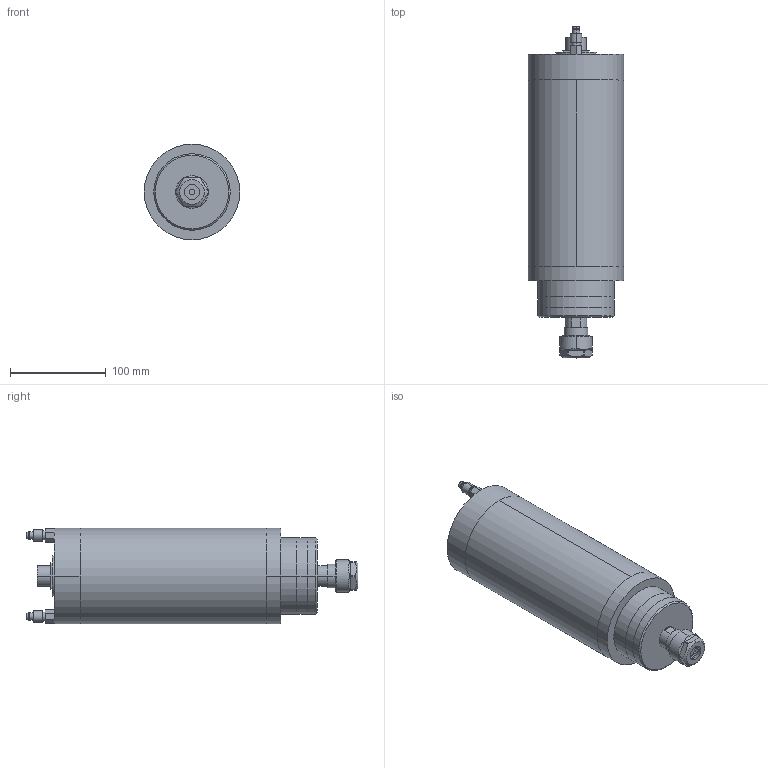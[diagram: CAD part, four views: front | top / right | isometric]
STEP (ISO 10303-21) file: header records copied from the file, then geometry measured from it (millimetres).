
FILE_DESCRIPTION (( 'STEP AP214' ), '1' );
FILE_NAME ('GDZ24-1B軞蚾.STEP', '2021-04-30T06:31:19', ( '萇齟' ), ( '' ), 'SwSTEP 2.0', 'SolidWorks 2018', '' );
FILE_SCHEMA (( 'AUTOMOTIVE_DESIGN' ));
Length unit declared in the file: millimetre
Products named in the file (12): GDZ24-1B粣芛; GDZ24-1B儂褲1; 堤盄釱脣芛28x28; ER20蹟簽; GDZ24-1B儂褲2; GDZ24-1B堤盄釱; GDZ24-1B粣創釱; GDZ24-1B儂褲3; GDZ24-1B軞蚾; ER20 粟俶芠標; GDZ17阨郲; GDZ24-1B儂褲
Assembly tree (12 placements, depth 2):
  GDZ24-1B軞蚾
    GDZ24-1B儂褲
    GDZ24-1B堤盄釱
    GDZ24-1B粣創釱
    GDZ24-1B儂褲1
    GDZ24-1B儂褲2
    GDZ24-1B儂褲3
    GDZ24-1B粣芛
    堤盄釱脣芛28x28
    ER20 粟俶芠標
    ER20蹟簽
    GDZ17阨郲  x2
Bounding box: 100 x 347.5 x 100 mm (x, y, z)
Volume: 2091577.5 mm3; surface area: 179617.6 mm2
Topology: 12 solids, 12 shells, 158 faces, 334 edges, 218 vertices
Faces by surface type: plane 68, cylinder 64, cone 22, torus 4
Entity records: 4516 total; most frequent: CARTESIAN_POINT 931, DIRECTION 708, ORIENTED_EDGE 568, AXIS2_PLACEMENT_3D 291, EDGE_CURVE 284, VERTEX_POINT 186, EDGE_LOOP 162, CIRCLE 142
